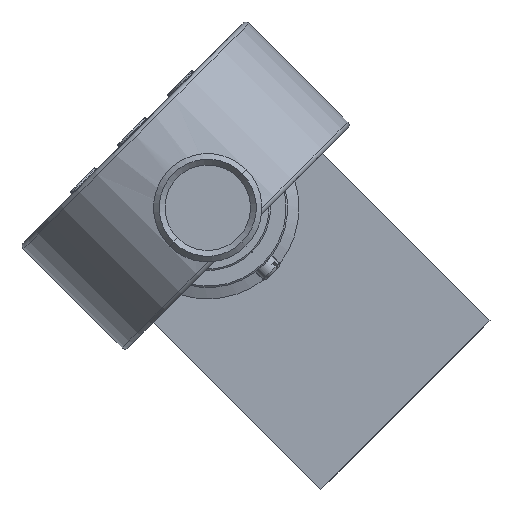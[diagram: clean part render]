
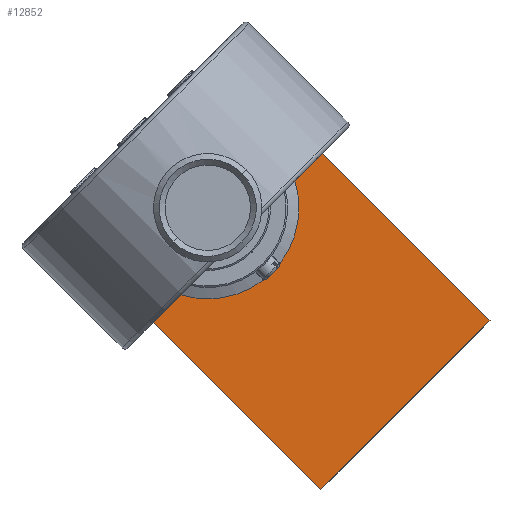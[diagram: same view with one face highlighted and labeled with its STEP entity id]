
A CAD part, front view. The second image highlights one B-rep face of the part: STEP entity #12852.
In plain terms, the highlighted planar face has unit normal (0, -1, 0).
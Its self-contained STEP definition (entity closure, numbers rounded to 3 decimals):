
#12310=CARTESIAN_POINT('Vertex',(641.2,406.106,369.327)) ;
#12313=CARTESIAN_POINT('Line Origine',(626.351,406.106,354.478)) ;
#12317=CARTESIAN_POINT('Vertex',(611.502,406.106,339.628)) ;
#12460=CARTESIAN_POINT('Vertex',(567.661,406.106,383.469)) ;
#12463=CARTESIAN_POINT('Line Origine',(589.581,406.106,361.549)) ;
#12575=CARTESIAN_POINT('Vertex',(600.917,406.106,394.16)) ;
#12578=CARTESIAN_POINT('Axis2P3D Location',(591.703,406.106,389.126)) ;
#12582=CARTESIAN_POINT('Vertex',(582.488,406.106,384.092)) ;
#12602=CARTESIAN_POINT('Axis2P3D Location',(591.703,406.106,389.126)) ;
#12705=CARTESIAN_POINT('Line Origine',(567.661,406.106,385.59)) ;
#12709=CARTESIAN_POINT('Vertex',(567.661,406.106,387.712)) ;
#12729=CARTESIAN_POINT('Line Origine',(580.389,406.106,400.439)) ;
#12733=CARTESIAN_POINT('Vertex',(593.117,406.106,413.167)) ;
#12753=CARTESIAN_POINT('Line Origine',(595.238,406.106,413.167)) ;
#12757=CARTESIAN_POINT('Vertex',(597.36,406.106,413.167)) ;
#12830=CARTESIAN_POINT('Axis2P3D Location',(588.874,406.106,391.954)) ;
#12835=CARTESIAN_POINT('Line Origine',(619.28,406.106,391.247)) ;
#12314=DIRECTION('Vector Direction',(-0.707,0.,-0.707)) ;
#12464=DIRECTION('Vector Direction',(0.707,0.,-0.707)) ;
#12579=DIRECTION('Axis2P3D Direction',(0.,-1.,0.)) ;
#12603=DIRECTION('Axis2P3D Direction',(0.,-1.,0.)) ;
#12706=DIRECTION('Vector Direction',(0.,0.,1.)) ;
#12730=DIRECTION('Vector Direction',(0.707,0.,0.707)) ;
#12754=DIRECTION('Vector Direction',(1.,0.,0.)) ;
#12831=DIRECTION('Axis2P3D Direction',(0.,-1.,0.)) ;
#12832=DIRECTION('Axis2P3D XDirection',(-0.707,0.,0.707)) ;
#12836=DIRECTION('Vector Direction',(-0.707,0.,0.707)) ;
#12580=AXIS2_PLACEMENT_3D('Circle Axis2P3D',#12578,#12579,$) ;
#12604=AXIS2_PLACEMENT_3D('Circle Axis2P3D',#12602,#12603,$) ;
#12833=AXIS2_PLACEMENT_3D('Plane Axis2P3D',#12830,#12831,#12832) ;
#12841=ORIENTED_EDGE('',*,*,#12467,.T.) ;
#12842=ORIENTED_EDGE('',*,*,#12319,.T.) ;
#12843=ORIENTED_EDGE('',*,*,#12839,.T.) ;
#12844=ORIENTED_EDGE('',*,*,#12759,.F.) ;
#12845=ORIENTED_EDGE('',*,*,#12735,.T.) ;
#12846=ORIENTED_EDGE('',*,*,#12711,.F.) ;
#12849=ORIENTED_EDGE('',*,*,#12584,.F.) ;
#12850=ORIENTED_EDGE('',*,*,#12606,.F.) ;
#12851=FACE_BOUND('',#12848,.T.) ;
#12315=VECTOR('Line Direction',#12314,1.) ;
#12465=VECTOR('Line Direction',#12464,1.) ;
#12707=VECTOR('Line Direction',#12706,1.) ;
#12731=VECTOR('Line Direction',#12730,1.) ;
#12755=VECTOR('Line Direction',#12754,1.) ;
#12837=VECTOR('Line Direction',#12836,1.) ;
#12852=ADVANCED_FACE('Produkt1.6\\Messuhrhalter_gerade.2\\Hauptk\X2\00F6\X0\rper',(#12847,#12851),#12834,.T.) ;
#12581=CIRCLE('generated circle',#12580,10.5) ;
#12605=CIRCLE('generated circle',#12604,10.5) ;
#12319=EDGE_CURVE('',#12318,#12311,#12316,.F.) ;
#12467=EDGE_CURVE('',#12461,#12318,#12466,.T.) ;
#12584=EDGE_CURVE('',#12576,#12583,#12581,.T.) ;
#12606=EDGE_CURVE('',#12583,#12576,#12605,.T.) ;
#12711=EDGE_CURVE('',#12461,#12710,#12708,.T.) ;
#12735=EDGE_CURVE('',#12734,#12710,#12732,.F.) ;
#12759=EDGE_CURVE('',#12734,#12758,#12756,.T.) ;
#12839=EDGE_CURVE('',#12311,#12758,#12838,.T.) ;
#12840=EDGE_LOOP('',(#12841,#12842,#12843,#12844,#12845,#12846)) ;
#12848=EDGE_LOOP('',(#12849,#12850)) ;
#12847=FACE_OUTER_BOUND('',#12840,.T.) ;
#12316=LINE('Line',#12313,#12315) ;
#12466=LINE('Line',#12463,#12465) ;
#12708=LINE('Line',#12705,#12707) ;
#12732=LINE('Line',#12729,#12731) ;
#12756=LINE('Line',#12753,#12755) ;
#12838=LINE('Line',#12835,#12837) ;
#12834=PLANE('Plane',#12833) ;
#12311=VERTEX_POINT('',#12310) ;
#12318=VERTEX_POINT('',#12317) ;
#12461=VERTEX_POINT('',#12460) ;
#12576=VERTEX_POINT('',#12575) ;
#12583=VERTEX_POINT('',#12582) ;
#12710=VERTEX_POINT('',#12709) ;
#12734=VERTEX_POINT('',#12733) ;
#12758=VERTEX_POINT('',#12757) ;
